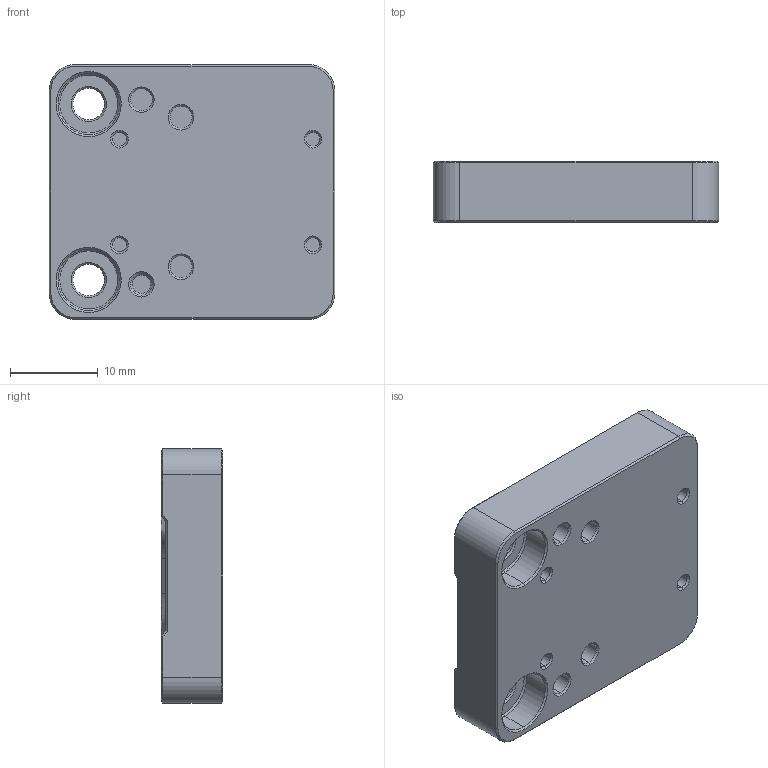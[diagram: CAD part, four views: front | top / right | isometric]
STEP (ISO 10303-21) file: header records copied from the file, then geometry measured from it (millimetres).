
FILE_DESCRIPTION (( 'STEP AP214' ), '1' );
FILE_NAME ('17715-02 - Alvium GIF Adapter Plate.STEP', '2022-06-07T11:11:13', ( '' ), ( '' ), 'SwSTEP 2.0', 'SolidWorks 2021', '' );
FILE_SCHEMA (( 'AUTOMOTIVE_DESIGN' ));
Length unit declared in the file: millimetre
Products named in the file (1): 17715-02 - Alvium GIF Adapter Plate
Bounding box: 32.5 x 7 x 29 mm (x, y, z)
Volume: 5919.3 mm3; surface area: 3113.2 mm2
Topology: 1 solids, 1 shells, 104 faces, 226 edges, 134 vertices
Faces by surface type: cone 44, plane 32, cylinder 28
Entity records: 3030 total; most frequent: DIRECTION 538, CARTESIAN_POINT 465, ORIENTED_EDGE 452, EDGE_CURVE 226, AXIS2_PLACEMENT_3D 207, VERTEX_POINT 134, VECTOR 124, LINE 124
